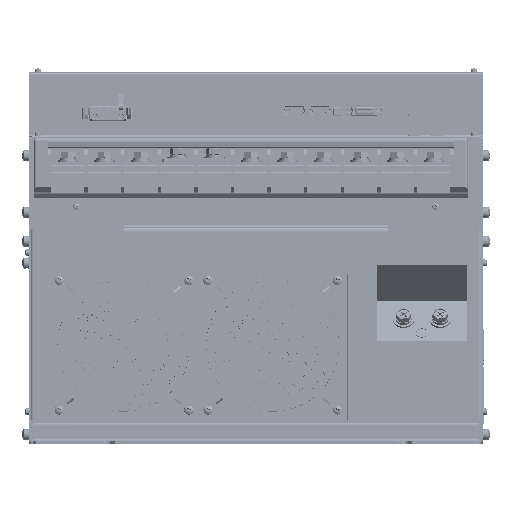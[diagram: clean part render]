
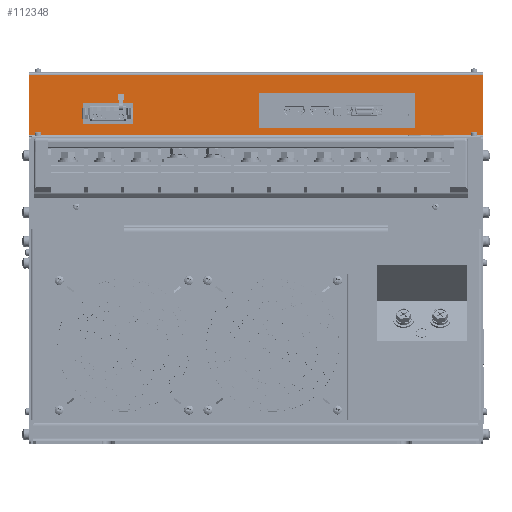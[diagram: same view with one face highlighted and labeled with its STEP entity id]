
A CAD part, front view. The second image highlights one B-rep face of the part: STEP entity #112348.
In plain terms, the highlighted planar face has unit normal (0, -1, 0).
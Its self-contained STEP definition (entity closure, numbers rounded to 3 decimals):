
#795 = VERTEX_POINT ( 'NONE', #378808 ) ;
#1390 = ORIENTED_EDGE ( 'NONE', *, *, #148179, .F. ) ;
#2763 = LINE ( 'NONE', #595947, #96262 ) ;
#19805 = ORIENTED_EDGE ( 'NONE', *, *, #37422, .F. ) ;
#20142 = VERTEX_POINT ( 'NONE', #186818 ) ;
#20404 = VECTOR ( 'NONE', #174219, 1000. ) ;
#23845 = DIRECTION ( 'NONE',  ( 0., 0., 1. ) ) ;
#24093 = CARTESIAN_POINT ( 'NONE',  ( -107.6, 74.5, 259.6 ) ) ;
#30964 = DIRECTION ( 'NONE',  ( 0., 0., 1. ) ) ;
#33547 = LINE ( 'NONE', #220784, #566290 ) ;
#34693 = CARTESIAN_POINT ( 'NONE',  ( -151.6, 74.5, 259.6 ) ) ;
#37422 = EDGE_CURVE ( 'NONE', #20142, #484527, #342039, .T. ) ;
#42352 = CARTESIAN_POINT ( 'NONE',  ( -107.6, 74.5, 277.6 ) ) ;
#55794 = ORIENTED_EDGE ( 'NONE', *, *, #190013, .F. ) ;
#61688 = CARTESIAN_POINT ( 'NONE',  ( -151.6, 74.5, 277.6 ) ) ;
#62079 = VECTOR ( 'NONE', #221767, 1000. ) ;
#64910 = ORIENTED_EDGE ( 'NONE', *, *, #340632, .F. ) ;
#73973 = DIRECTION ( 'NONE',  ( 0., 0., -1. ) ) ;
#89100 = VERTEX_POINT ( 'NONE', #543268 ) ;
#92172 = VECTOR ( 'NONE', #30964, 1000. ) ;
#96262 = VECTOR ( 'NONE', #270229, 1000. ) ;
#112034 = EDGE_CURVE ( 'NONE', #117025, #795, #299355, .T. ) ;
#112348 = ADVANCED_FACE ( 'NONE', ( #564813, #514641, #320264 ), #500144, .T. ) ;
#117025 = VERTEX_POINT ( 'NONE', #311644 ) ;
#119263 = VECTOR ( 'NONE', #570383, 1000. ) ;
#120259 = DIRECTION ( 'NONE',  ( 1., 0., 0. ) ) ;
#122306 = VERTEX_POINT ( 'NONE', #404428 ) ;
#128129 = DIRECTION ( 'NONE',  ( -1., 0., 0. ) ) ;
#141491 = EDGE_CURVE ( 'NONE', #351396, #454183, #308411, .T. ) ;
#148179 = EDGE_CURVE ( 'NONE', #214347, #243726, #302328, .T. ) ;
#157987 = VERTEX_POINT ( 'NONE', #555564 ) ;
#161927 = EDGE_CURVE ( 'NONE', #89100, #351396, #33547, .T. ) ;
#162591 = CARTESIAN_POINT ( 'NONE',  ( 139.3, 74.5, 286.2 ) ) ;
#162604 = LINE ( 'NONE', #566448, #119263 ) ;
#163121 = VECTOR ( 'NONE', #73973, 1000. ) ;
#169842 = ORIENTED_EDGE ( 'NONE', *, *, #571671, .F. ) ;
#174219 = DIRECTION ( 'NONE',  ( 0., 0., -1. ) ) ;
#177638 = EDGE_CURVE ( 'NONE', #122306, #89100, #286697, .T. ) ;
#186818 = CARTESIAN_POINT ( 'NONE',  ( 2.3, 74.5, 256.2 ) ) ;
#190013 = EDGE_CURVE ( 'NONE', #243726, #157987, #162604, .T. ) ;
#200494 = DIRECTION ( 'NONE',  ( -1., 0., 0. ) ) ;
#212712 = CARTESIAN_POINT ( 'NONE',  ( 2.3, 74.5, 286.2 ) ) ;
#214347 = VERTEX_POINT ( 'NONE', #42352 ) ;
#220784 = CARTESIAN_POINT ( 'NONE',  ( 198.6, 74.5, 302.4 ) ) ;
#221767 = DIRECTION ( 'NONE',  ( 1., 0., 0. ) ) ;
#227766 = LINE ( 'NONE', #34693, #62079 ) ;
#227817 = LINE ( 'NONE', #212712, #163121 ) ;
#243726 = VERTEX_POINT ( 'NONE', #413297 ) ;
#245298 = CARTESIAN_POINT ( 'NONE',  ( 2.3, 74.5, 286.2 ) ) ;
#252380 = CARTESIAN_POINT ( 'NONE',  ( -198.6, 74.5, 302.4 ) ) ;
#259013 = VECTOR ( 'NONE', #200494, 1000. ) ;
#260191 = EDGE_CURVE ( 'NONE', #484527, #117025, #592972, .T. ) ;
#270229 = DIRECTION ( 'NONE',  ( 0., 0., 1. ) ) ;
#273026 = CARTESIAN_POINT ( 'NONE',  ( 198.6, 74.5, 302.4 ) ) ;
#273268 = AXIS2_PLACEMENT_3D ( 'NONE', #498139, #494244, #128129 ) ;
#277291 = VECTOR ( 'NONE', #476382, 1000. ) ;
#286697 = LINE ( 'NONE', #252380, #92172 ) ;
#289770 = ORIENTED_EDGE ( 'NONE', *, *, #260191, .F. ) ;
#299355 = LINE ( 'NONE', #245298, #414345 ) ;
#302328 = LINE ( 'NONE', #61688, #259013 ) ;
#308411 = LINE ( 'NONE', #536357, #20404 ) ;
#308863 = ORIENTED_EDGE ( 'NONE', *, *, #578091, .F. ) ;
#311644 = CARTESIAN_POINT ( 'NONE',  ( 139.3, 74.5, 286.2 ) ) ;
#316433 = EDGE_LOOP ( 'NONE', ( #64910, #396262, #289770, #19805 ) ) ;
#320264 = FACE_BOUND ( 'NONE', #316433, .T. ) ;
#340632 = EDGE_CURVE ( 'NONE', #795, #20142, #227817, .T. ) ;
#342039 = LINE ( 'NONE', #480306, #277291 ) ;
#351396 = VERTEX_POINT ( 'NONE', #273026 ) ;
#378808 = CARTESIAN_POINT ( 'NONE',  ( 2.3, 74.5, 286.2 ) ) ;
#390290 = EDGE_LOOP ( 'NONE', ( #55794, #1390, #483957, #308863 ) ) ;
#391374 = EDGE_CURVE ( 'NONE', #541882, #214347, #2763, .T. ) ;
#392181 = CARTESIAN_POINT ( 'NONE',  ( 139.3, 74.5, 256.2 ) ) ;
#396262 = ORIENTED_EDGE ( 'NONE', *, *, #112034, .F. ) ;
#401749 = DIRECTION ( 'NONE',  ( -1., 0., 0. ) ) ;
#404428 = CARTESIAN_POINT ( 'NONE',  ( -198.6, 74.5, 250. ) ) ;
#413297 = CARTESIAN_POINT ( 'NONE',  ( -151.6, 74.5, 277.6 ) ) ;
#414345 = VECTOR ( 'NONE', #567102, 1000. ) ;
#447038 = ORIENTED_EDGE ( 'NONE', *, *, #141491, .F. ) ;
#454183 = VERTEX_POINT ( 'NONE', #555916 ) ;
#463311 = ORIENTED_EDGE ( 'NONE', *, *, #177638, .F. ) ;
#476382 = DIRECTION ( 'NONE',  ( 1., 0., 0. ) ) ;
#480306 = CARTESIAN_POINT ( 'NONE',  ( 2.3, 74.5, 256.2 ) ) ;
#483957 = ORIENTED_EDGE ( 'NONE', *, *, #391374, .F. ) ;
#484527 = VERTEX_POINT ( 'NONE', #392181 ) ;
#486383 = LINE ( 'NONE', #590474, #594296 ) ;
#494244 = DIRECTION ( 'NONE',  ( 0., -1., 0. ) ) ;
#498139 = CARTESIAN_POINT ( 'NONE',  ( 0., 74.5, 249. ) ) ;
#499455 = VECTOR ( 'NONE', #23845, 1000. ) ;
#500144 = PLANE ( 'NONE',  #273268 ) ;
#502729 = ORIENTED_EDGE ( 'NONE', *, *, #161927, .F. ) ;
#514641 = FACE_BOUND ( 'NONE', #390290, .T. ) ;
#515153 = EDGE_LOOP ( 'NONE', ( #463311, #169842, #447038, #502729 ) ) ;
#536357 = CARTESIAN_POINT ( 'NONE',  ( 198.6, 74.5, 249. ) ) ;
#541882 = VERTEX_POINT ( 'NONE', #24093 ) ;
#543268 = CARTESIAN_POINT ( 'NONE',  ( -198.6, 74.5, 302.4 ) ) ;
#555564 = CARTESIAN_POINT ( 'NONE',  ( -151.6, 74.5, 259.6 ) ) ;
#555916 = CARTESIAN_POINT ( 'NONE',  ( 198.6, 74.5, 250. ) ) ;
#564813 = FACE_OUTER_BOUND ( 'NONE', #515153, .T. ) ;
#566290 = VECTOR ( 'NONE', #120259, 1000. ) ;
#566448 = CARTESIAN_POINT ( 'NONE',  ( -151.6, 74.5, 277.6 ) ) ;
#567102 = DIRECTION ( 'NONE',  ( -1., 0., 0. ) ) ;
#570383 = DIRECTION ( 'NONE',  ( 0., 0., -1. ) ) ;
#571671 = EDGE_CURVE ( 'NONE', #454183, #122306, #486383, .T. ) ;
#578091 = EDGE_CURVE ( 'NONE', #157987, #541882, #227766, .T. ) ;
#590474 = CARTESIAN_POINT ( 'NONE',  ( 198.6, 74.5, 250. ) ) ;
#592972 = LINE ( 'NONE', #162591, #499455 ) ;
#594296 = VECTOR ( 'NONE', #401749, 1000. ) ;
#595947 = CARTESIAN_POINT ( 'NONE',  ( -107.6, 74.5, 277.6 ) ) ;
